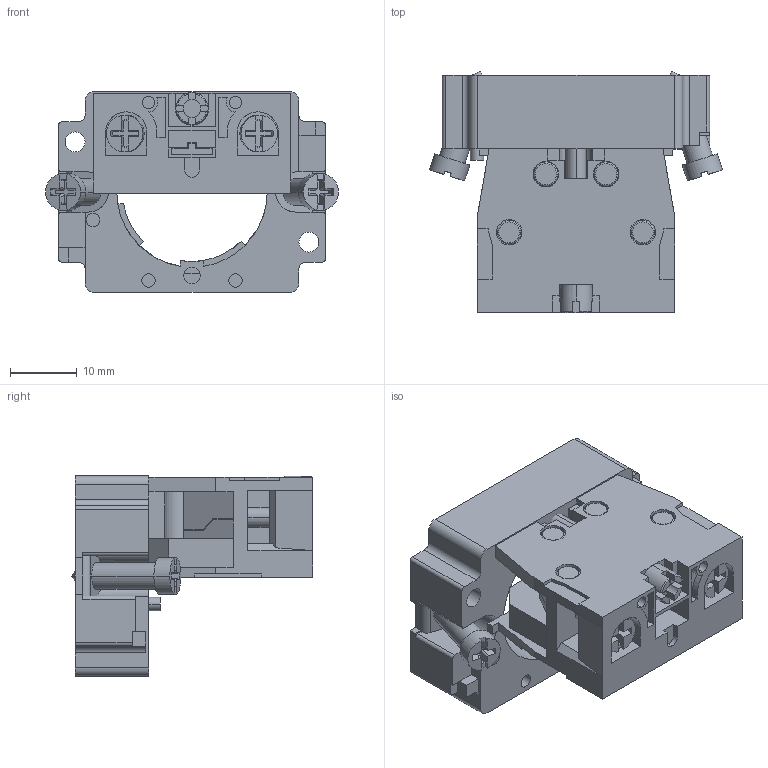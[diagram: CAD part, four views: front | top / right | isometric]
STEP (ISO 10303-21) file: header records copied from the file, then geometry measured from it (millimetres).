
FILE_DESCRIPTION (( 'STEP AP214' ), '1' );
FILE_NAME ('3D 斁麧錪 MTB2-BZ11(12).STEP', '2017-03-11T11:03:47', ( '' ), ( '' ), 'SwSTEP 2.0', 'SolidWorks 2013', '' );
FILE_SCHEMA (( 'AUTOMOTIVE_DESIGN' ));
Length unit declared in the file: millimetre
Products named in the file (3): MTB2-BE áëîê-êîíòàêò; Îñíîâàíèå ìåòàëë; 3D 斁麧錪 MTB2-BZ11(12)
Assembly tree (2 placements, depth 2):
  3D 斁麧錪 MTB2-BZ11(12)
    Îñíîâàíèå ìåòàëë
    MTB2-BE áëîê-êîíòàêò
Bounding box: 43.81 x 36.11 x 30 mm (x, y, z)
Volume: 13220.7 mm3; surface area: 12026.1 mm2
Topology: 3 solids, 3 shells, 680 faces, 1829 edges, 1194 vertices
Faces by surface type: plane 483, cylinder 165, cone 16, torus 16
Entity records: 22645 total; most frequent: CARTESIAN_POINT 4058, ORIENTED_EDGE 3650, DIRECTION 3528, EDGE_CURVE 1825, LINE 1334, VECTOR 1334, VERTEX_POINT 1194, AXIS2_PLACEMENT_3D 1097
